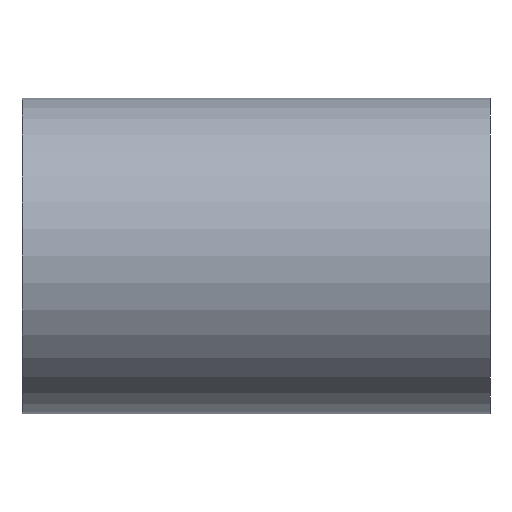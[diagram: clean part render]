
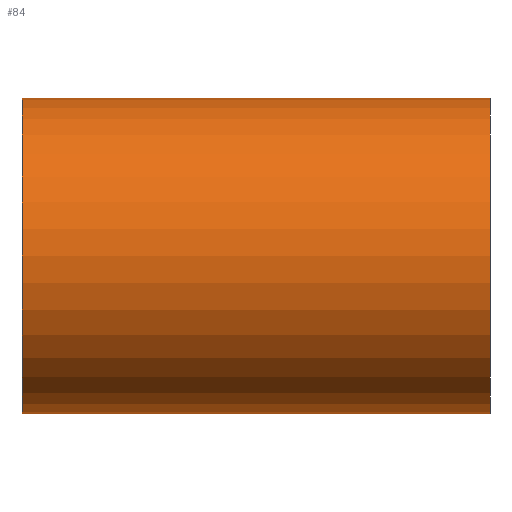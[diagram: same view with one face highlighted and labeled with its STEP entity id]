
A CAD part, front view. The second image highlights one B-rep face of the part: STEP entity #84.
In plain terms, the highlighted cylindrical face has radius 270 mm (diameter 540 mm), a partial arc.
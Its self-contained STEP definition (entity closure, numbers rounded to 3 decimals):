
#84=ADVANCED_FACE('',(#164),#165,.T.);
#164=FACE_OUTER_BOUND('',#255,.T.);
#165=CYLINDRICAL_SURFACE('',#256,270.0);
#255=EDGE_LOOP('',(#435,#436,#437,#438));
#256=AXIS2_PLACEMENT_3D('',#439,#440,#441);
#435=ORIENTED_EDGE('',*,*,#491,.T.);
#436=ORIENTED_EDGE('',*,*,#568,.F.);
#437=ORIENTED_EDGE('',*,*,#493,.T.);
#438=ORIENTED_EDGE('',*,*,#569,.F.);
#439=CARTESIAN_POINT('',(0.0,0.0,0.0));
#440=DIRECTION('',(1.0,0.0,0.0));
#441=DIRECTION('',(0.0,0.0,-1.0));
#491=EDGE_CURVE('',#573,#574,#575,.T.);
#493=EDGE_CURVE('',#578,#576,#579,.T.);
#568=EDGE_CURVE('',#578,#574,#690,.T.);
#569=EDGE_CURVE('',#573,#576,#691,.T.);
#573=VERTEX_POINT('',#695);
#574=VERTEX_POINT('',#696);
#575=LINE('',#697,#698);
#576=VERTEX_POINT('',#699);
#578=VERTEX_POINT('',#701);
#579=LINE('',#702,#703);
#690=CIRCLE('',#832,270.0);
#691=CIRCLE('',#833,270.0);
#695=CARTESIAN_POINT('',(-400.0,0.0,-270.0));
#696=CARTESIAN_POINT('',(400.0,0.0,-270.0));
#697=CARTESIAN_POINT('',(0.0,0.,-270.0));
#698=VECTOR('',#836,1.0);
#699=CARTESIAN_POINT('',(-400.0,0.,270.0));
#701=CARTESIAN_POINT('',(400.0,0.,270.0));
#702=CARTESIAN_POINT('',(0.0,0.,270.0));
#703=VECTOR('',#840,1.0);
#832=AXIS2_PLACEMENT_3D('',#970,#971,#972);
#833=AXIS2_PLACEMENT_3D('',#973,#974,#975);
#836=DIRECTION('',(1.0,0.0,0.0));
#840=DIRECTION('',(-1.0,-0.0,-0.0));
#970=CARTESIAN_POINT('',(400.0,0.0,0.0));
#971=DIRECTION('',(1.0,0.0,0.0));
#972=DIRECTION('',(0.0,0.0,-1.0));
#973=CARTESIAN_POINT('',(-400.0,0.0,0.0));
#974=DIRECTION('',(-1.0,0.0,0.0));
#975=DIRECTION('',(0.0,0.0,-1.0));
